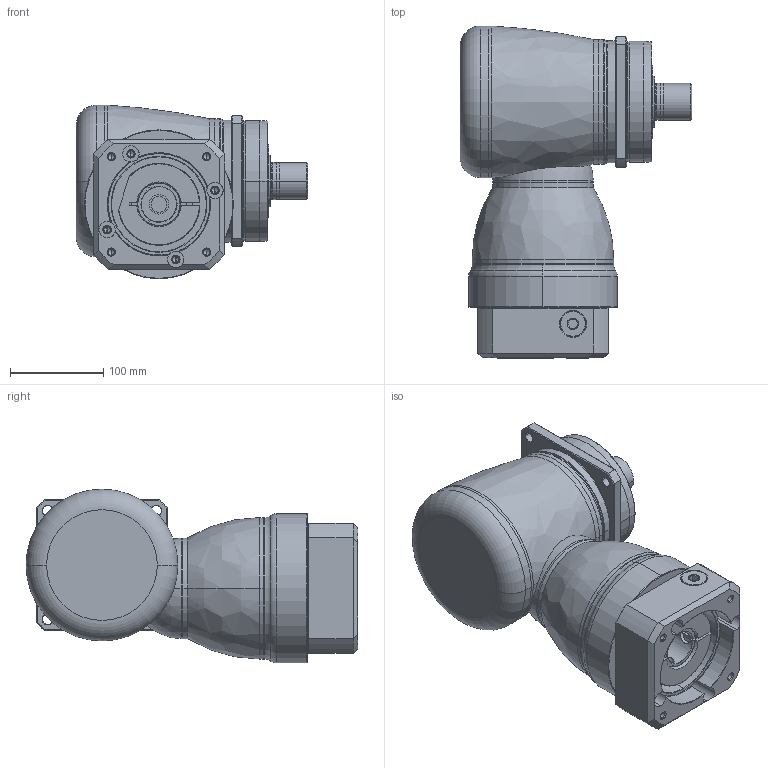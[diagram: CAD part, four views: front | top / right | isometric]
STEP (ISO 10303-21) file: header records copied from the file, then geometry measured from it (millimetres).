
FILE_DESCRIPTION((''),'2;1');
FILE_NAME('KF140_S3_1ST_38-P0409900101_ASM','2016-07-05T',('d01943'),(''),'PRO/ENGINEER BY PARAMETRIC TECHNOLOGY CORPORATION, 2008410','PRO/ENGINEER BY PARAMETRIC TECHNOLOGY CORPORATION, 2008410','');
FILE_SCHEMA(('CONFIG_CONTROL_DESIGN'));
Length unit declared in the file: millimetre
Products named in the file (11): P1008500002; P1804500001; P0915502001; P1315500001; P1007500001; P1318500401; P0409900101; P0503900012; P0912504201; 21711422019; KF140_S3_1ST_38-P0409900101_ASM
Assembly tree (10 placements, depth 2):
  KF140_S3_1ST_38-P0409900101_ASM
    P1008500002
    P1804500001
    P0915502001
    P1315500001
    P1007500001
    P1318500401
    P0409900101
    P0503900012
    P0912504201
    21711422019
Bounding box: 249 x 356.5 x 186.5 mm (x, y, z)
Volume: 6304021.8 mm3; surface area: 540923.9 mm2
Topology: 11 solids, 11 shells, 473 faces, 1077 edges, 640 vertices
Faces by surface type: cylinder 158, cone 132, plane 98, torus 64, bspline 19, sphere 2
Entity records: 18269 total; most frequent: CARTESIAN_POINT 7379, DIRECTION 2405, ORIENTED_EDGE 2114, EDGE_CURVE 1057, AXIS2_PLACEMENT_3D 1019, VERTEX_POINT 640, CIRCLE 544, EDGE_LOOP 539
